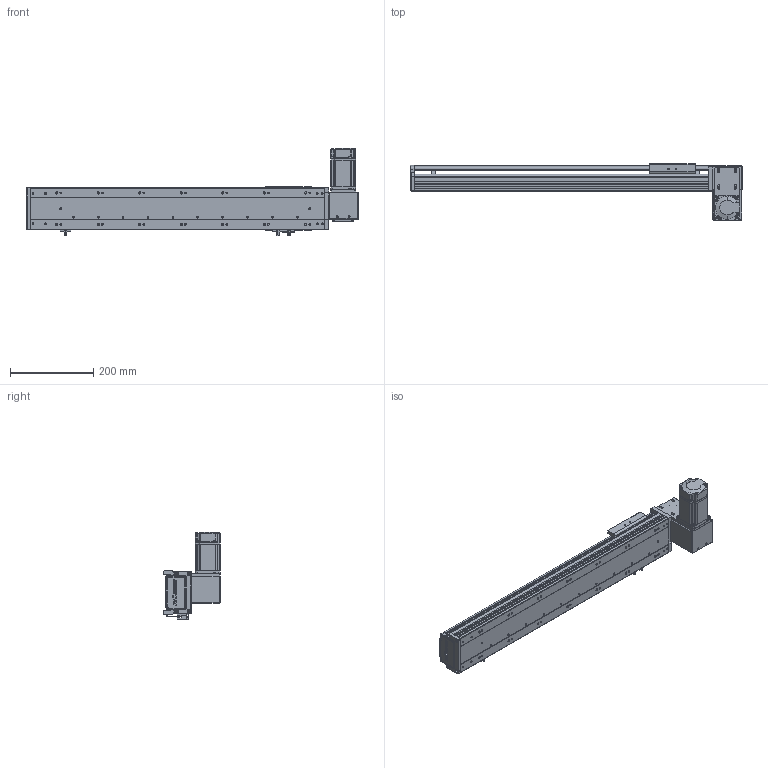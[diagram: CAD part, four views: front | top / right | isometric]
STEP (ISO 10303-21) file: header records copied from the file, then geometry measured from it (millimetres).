
FILE_DESCRIPTION (( 'STEP AP203' ), '1' );
FILE_NAME ('RY100-T-300-DR.SLDASM_500.step', '2024-04-25T03:22:11', ( '盈信电脑' ), ( '东莞市道滘镇水果街19号' ), 'SwSTEP 2.0', 'SolidWorks 2016', '' );
FILE_SCHEMA (( 'CONFIG_CONTROL_DESIGN' ));
Length unit declared in the file: millimetre
Products named in the file (16): RY100俋离覜茼え; RY100綴裔啣; RY100-T肮祭謫臏賑輸; 侂狟200W萇儂; RY100-T-300-RK倰第奻裔_500; RY100-T-300-RK倰第菁釱_500; RY80-T肮祭謫狟殏俋欶; RY100-T-300-DR.SLDASM_500; RY100-T翋肮祭謫裔啣2; 覜茼ん672; 1; 滅袉蝶18-10; RY100-T左右折电机安装板; RY100-T肮祭謫翋盓傅釱; RY100-T翋肮祭謫裔啣; RY100-T粣創揤踡裔
Assembly tree (19 placements, depth 3):
  RY100-T-300-DR.SLDASM_500
    RY100-T-300-RK倰第菁釱_500
    RY100-T-300-RK倰第奻裔_500
    RY100-T肮祭謫臏賑輸
    RY100綴裔啣
    覜茼ん672  x3
    RY100俋离覜茼え
    RY100-T肮祭謫翋盓傅釱
    RY100-T左右折电机安装板
    侂狟200W萇儂
      1
    RY100-T粣創揤踡裔
    滅袉蝶18-10  x2
    RY100-T翋肮祭謫裔啣2  x2
    RY100-T翋肮祭謫裔啣
    RY80-T肮祭謫狟殏俋欶
Bounding box: 800 x 135.5 x 209.7 mm (x, y, z)
Volume: 1842141 mm3; surface area: 739283 mm2
Topology: 18 solids, 18 shells, 2201 faces, 6109 edges, 3967 vertices
Faces by surface type: plane 1213, cylinder 779, cone 131, bspline 78
Entity records: 70258 total; most frequent: CARTESIAN_POINT 16906, ORIENTED_EDGE 10954, DIRECTION 10421, EDGE_CURVE 5477, VERTEX_POINT 3603, VECTOR 3571, LINE 3571, AXIS2_PLACEMENT_3D 3425
